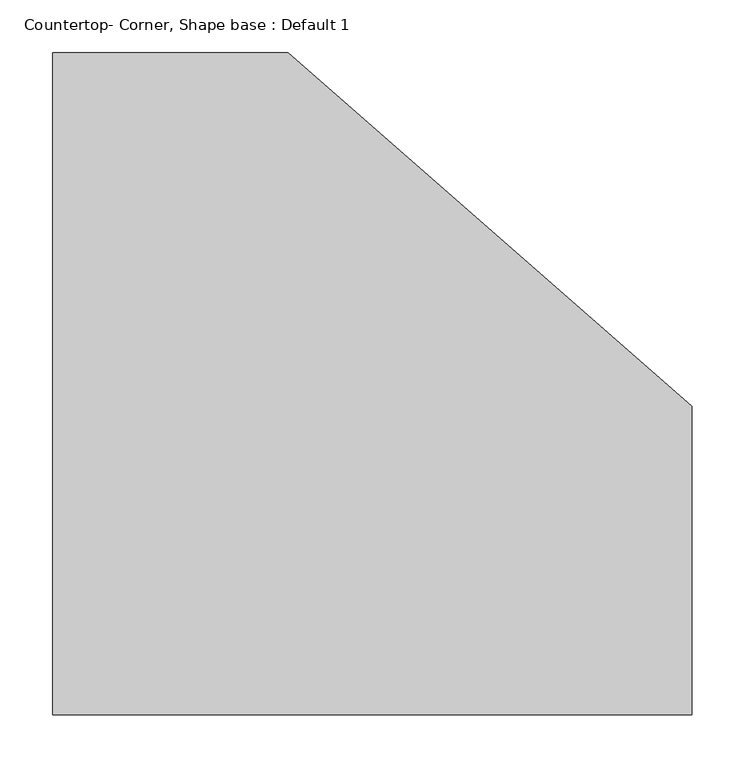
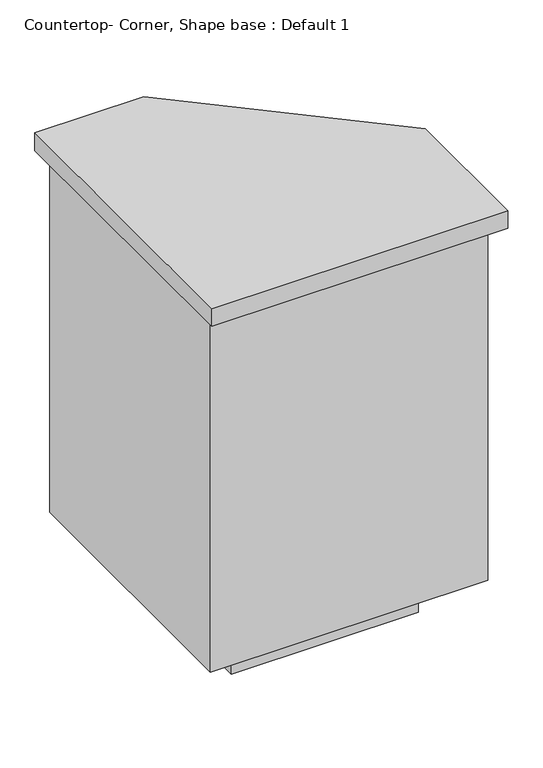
"""IFC4 building model written with IfcOpenShell, lengths in millimetres: proxy geometry, Countertop- Corner, Shape base : Default 1."""

from ifc_helpers import new_model, si_unit, frame, origin, origin_with_axes, place, context, project, spatial, polyline, outline, extrude, source, transform, mapped, element, save


def countertop_corner_shape_base_default_1_70b113c3(model_context):
    return source(origin(), model_context, "Body", "SweptSolid", [
        extrude(outline(polyline([(921.25, -19.05), (921.25, 605.3953754), (1143.4139938, 605.3953754), (1524.5, 271.9897205), (1524.5, -19.05), (921.25, -19.05)])), frame((0.0, 0.0, 876.3), z_axis=(0.0, 0.0, 1.0), x_axis=(1.0, 0.0, 0.0)), (0.0, 0.0, 1.0), 38.1),
        extrude(outline(polyline([(940.3, 586.3453754), (1124.3639938, 586.3453754), (1505.45, 252.9397205), (1505.45, 19.05), (940.3, 19.05), (940.3, 586.3453754)])), frame((0.0, 0.0, 101.6), z_axis=(0.0, 0.0, 1.0), x_axis=(1.0, 0.0, 0.0)), (0.0, 0.0, 1.0), 774.7),
        extrude(outline(polyline([(1041.9, 484.7453754), (1048.00941, 484.7453754), (1422.9, 151.3397205), (1422.9, 120.65), (1041.9, 120.65), (1041.9, 484.7453754)])), origin_with_axes(), (0.0, 0.0, 1.0), 101.6),
    ])


if __name__ == "__main__":
    model = new_model("IFC4")
    model_context = context("Model", 3, world=origin())
    ifc_project = project(units=[si_unit("LENGTHUNIT", "METRE", prefix="MILLI")], contexts=[model_context])
    site = spatial("IfcSite", under=ifc_project)
    building = spatial("IfcBuilding", under=site)
    placement = place(None, origin())
    countertop_corner_shape_base_default_1_shape = countertop_corner_shape_base_default_1_70b113c3(model_context)
    element("IfcBuildingElementProxy", 1, Name="Countertop- Corner, Shape base : Default 1", ObjectType="Countertop- Corner, Shape base : Default 1", at=placement, inside=building, context=model_context, shape_type="MappedRepresentation", body=[
        mapped(countertop_corner_shape_base_default_1_shape, transform((0.0, 0.0, 0.0), x_axis=(1.0, 0.0, 0.0), y_axis=(0.0, 1.0, 0.0), z_axis=(0.0, 0.0, 1.0))),
    ])
    save(model, "model.ifc")
